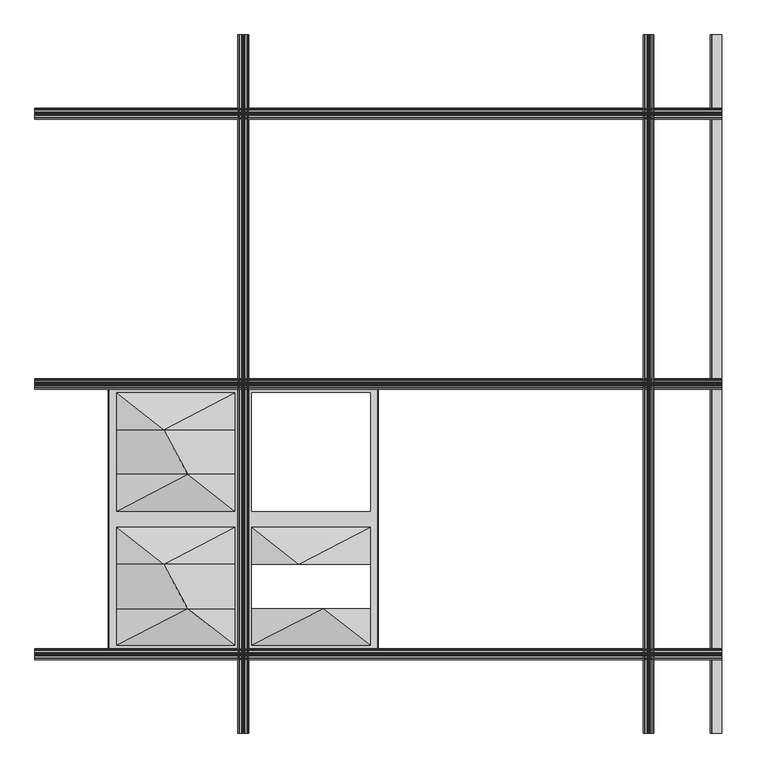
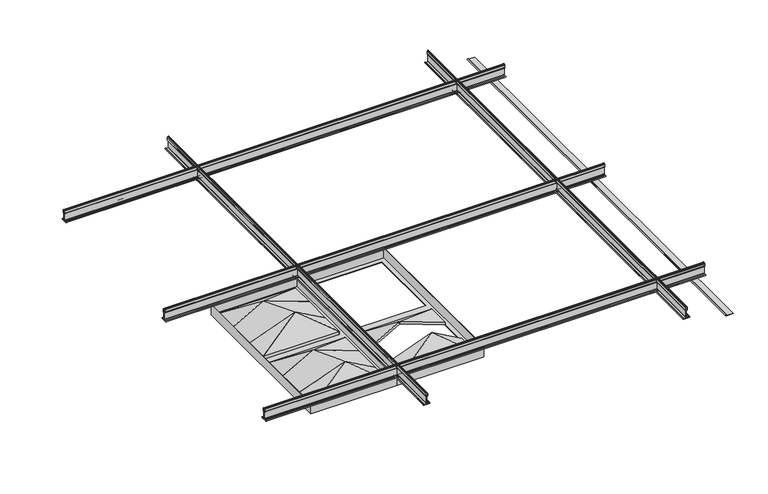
"""IFC4 building model written with IfcOpenShell, lengths in millimetres: proxy geometry, Maxxit_Highland-Ceiling_rev-01 : Maxxit_Highland-Ceiling_Duo."""

from ifc_helpers import new_model, si_unit, point, frame, frame_2d, origin, place, context, project, spatial, polyline, circle_curve, trimmed, segment, composite_curve, outline, extrude, faceted_brep, source, transform, mapped, element, save
from ifc_brep_helpers import plane_surface, spline_surface, advanced_brep


def generic_models_fc730ad4(model_context):
    return source(origin(), model_context, "Body", "SolidModel", [
        faceted_brep([(489.2062531, 196.8499878, -0.9528165), (755.90625, 196.8499878, -0.9528165), (649.8655039, 280.113865, 58.6660323), (755.90625, 196.8499878, -11.1125), (489.2062531, 196.8499878, -11.1125), (649.8479879, 280.1361956, 48.522338)], [[[0, 1, 2]], [[3, 4, 5]], [[1, 0, 4, 3]], [[5, 2, 1, 3]], [[2, 5, 4, 0]]]),
        faceted_brep([(489.2062531, 463.5172247, -0.9528165), (755.90625, 463.5172247, -0.9528165), (755.8430731, 463.5172247, -11.1125), (489.2062531, 463.5172247, -11.1125), (595.2710937, 380.2533474, 48.5063488), (595.2710937, 380.2533474, 58.6660323)], [[[0, 1, 2, 3]], [[3, 2, 4]], [[1, 0, 5]], [[5, 4, 2, 1]], [[4, 5, 0, 3]]]),
        faceted_brep([(755.90625, 280.113865, -11.1125), (649.8655039, 280.113865, 48.5063488), (489.2062531, 280.113865, -11.1125), (489.2062531, 280.113865, -0.9528165), (649.8655039, 280.113865, 58.6660323), (755.90625, 280.113865, -0.9528165), (755.90625, 196.8499878, -0.9528165), (755.90625, 196.8499878, -11.1125), (489.2113555, 196.8387928, -11.1106065), (489.2062531, 196.836147, -0.9528165)], [[[0, 1, 2, 3, 4, 5]], [[5, 4, 6]], [[0, 5, 6, 7]], [[1, 0, 7]], [[2, 1, 8]], [[3, 2, 8, 9]], [[4, 3, 9]], [[1, 4, 9, 8]], [[4, 1, 7, 6]]]),
        faceted_brep([(755.90625, 380.2533474, -11.1125), (755.90625, 380.2533474, -0.9528165), (595.2710937, 380.2533474, 58.6570911), (489.2062531, 380.2533474, -0.9528165), (489.2062531, 380.2533474, -11.1125), (595.2710937, 380.2533474, 48.4974075), (755.90625, 463.5499847, -0.9528165), (755.90625, 463.5499847, -11.1125), (489.2062531, 463.5499847, -11.1125), (489.2062531, 463.5499847, -0.9528165)], [[[0, 1, 2, 3, 4, 5]], [[2, 1, 6]], [[1, 0, 7, 6]], [[0, 5, 7]], [[5, 4, 8]], [[4, 3, 9, 8]], [[3, 2, 9]], [[5, 2, 6, 7]], [[2, 5, 8, 9]]]),
        faceted_brep([(470.69375, 785.8125, 25.4), (773.90625, 785.8125, 25.4), (773.90625, 785.8125, -12.7), (470.69375, 785.8125, -12.7), (755.90625, 463.5499847, -12.7), (755.90625, 196.8499878, -12.7), (755.90625, 196.8499878, -11.1125), (755.90625, 463.5499847, -11.1125), (489.2062531, 196.8499878, -12.7), (489.2062531, 196.8499878, -11.1125), (772.31875, 179.3875, -11.1125), (472.28125, 179.3875, -11.1125), (472.28125, 179.3875, 25.4), (772.31875, 179.3875, 25.4), (772.31875, 784.225, -11.1125), (772.31875, 784.225, 25.4), (470.69375, 177.8, 25.4), (773.90625, 177.8, 25.4), (472.28125, 784.225, 25.4), (470.69375, 177.8, -12.7), (773.90625, 177.8, -12.7), (489.2062531, 463.5499847, -12.7), (489.2062531, 766.7625122, -12.7), (489.2062531, 500.0625153, -12.7), (755.90625, 500.0625153, -12.7), (755.90625, 766.7625122, -12.7), (489.2062531, 463.5499847, -11.1125), (472.28125, 784.225, -11.1125), (489.2062531, 766.7625122, -11.1125), (755.90625, 766.7625122, -11.1125), (755.90625, 500.0625153, -11.1125), (489.2062531, 500.0625153, -11.1125)], [[[0, 1, 2, 3]], [[4, 5, 6, 7]], [[5, 8, 9, 6]], [[10, 11, 12, 13]], [[14, 10, 13, 15]], [[16, 17, 1, 0], [13, 12, 18, 15]], [[19, 3, 2, 20], [8, 5, 4, 21], [22, 23, 24, 25]], [[17, 16, 19, 20]], [[1, 17, 20, 2]], [[16, 0, 3, 19]], [[8, 21, 26, 9]], [[21, 4, 7, 26]], [[11, 10, 14, 27], [7, 6, 9, 26], [28, 29, 30, 31]], [[27, 14, 15, 18]], [[11, 27, 18, 12]], [[22, 25, 29, 28]], [[25, 24, 30, 29]], [[24, 23, 31, 30]], [[23, 22, 28, 31]]]),
        faceted_brep([(451.10625, 583.3263925, -11.1125), (345.0655039, 583.3263925, 48.5063488), (184.4062531, 583.3263925, -11.1125), (184.4062531, 583.3263925, -0.9528165), (345.0655039, 583.3263925, 58.6660323), (451.10625, 583.3263925, -0.9528165), (451.10625, 500.0625153, -0.9528165), (451.10625, 500.0625153, -11.1125), (184.4113555, 500.0513203, -11.1106065), (184.4062531, 500.0486744, -0.9528165)], [[[0, 1, 2, 3, 4, 5]], [[5, 4, 6]], [[0, 5, 6, 7]], [[1, 0, 7]], [[2, 1, 8]], [[3, 2, 8, 9]], [[4, 3, 9]], [[1, 4, 9, 8]], [[4, 1, 7, 6]]]),
        faceted_brep([(184.4062531, 500.0625153, -0.9528165), (451.10625, 500.0625153, -0.9528165), (345.0655039, 583.3263925, 58.6660323), (451.10625, 500.0625153, -11.1125), (184.4062531, 500.0625153, -11.1125), (345.0479879, 583.3487231, 48.522338)], [[[0, 1, 2]], [[3, 4, 5]], [[1, 0, 4, 3]], [[5, 2, 1, 3]], [[2, 5, 4, 0]]]),
        faceted_brep([(184.4062531, 766.7297521, -0.9528165), (451.10625, 766.7297521, -0.9528165), (451.0430731, 766.7297521, -11.1125), (184.4062531, 766.7297521, -11.1125), (290.4710937, 683.4658749, 48.5063488), (290.4710937, 683.4658749, 58.6660323)], [[[0, 1, 2, 3]], [[3, 2, 4]], [[1, 0, 5]], [[5, 4, 2, 1]], [[4, 5, 0, 3]]]),
        advanced_brep(
        [(451.10625, 280.113865, -0.9528165), (345.0655039, 280.113865, 58.6660323), (184.4062531, 280.113865, -0.9528165), (184.4062531, 280.113865, -11.1125), (345.0655039, 280.113865, 48.5063488), (451.10625, 280.113865, -11.1125), (451.10625, 380.2533474, -0.9528165), (451.10625, 380.2533474, -11.1125), (290.4710937, 380.2533474, 48.4974075), (184.4062531, 380.2533474, -11.1125), (184.4062531, 380.2533474, -0.9528165), (290.4710937, 380.2533474, 58.6570911)],
        [
            (0, 1),
            (1, 2),
            (2, 3),
            (3, 4),
            (4, 5),
            (5, 0),
            (6, 7),
            (7, 8),
            (8, 9),
            (9, 10),
            (10, 11),
            (11, 6),
            (6, 0),
            (5, 7),
            (4, 8),
            (3, 9),
            (2, 10),
            (1, 11),
        ],
        [
            plane_surface(frame((326.8593357, 280.113865, 13.8402914), z_axis=(0.0, -1.0000000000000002, 0.0), x_axis=(0.8716776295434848, 0.0, -0.4900796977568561))),
            plane_surface(frame((308.6611989, 380.2533474, 13.8373109), z_axis=(0.0, 1.0000000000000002, 0.0), x_axis=(0.8716776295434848, 0.0, -0.4900796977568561))),
            plane_surface(frame((451.10625, 380.2533474, -6.0326582), z_axis=(1.0, 0.0, 0.0), x_axis=(0.0, 0.0, 1.0))),
            spline_surface(1, 1, [[(290.4710937, 380.2533474, 48.4974075), (345.0655039, 280.113865, 48.5063488)], [(451.10625, 380.2533474, -11.1125), (451.10625, 280.113865, -11.1125)]], [2, 2], [2, 2], [0.0, 1.0], [0.0, 1.0]),
            spline_surface(1, 1, [[(184.4062531, 380.2533474, -11.1125), (184.4062531, 280.113865, -11.1125)], [(290.4710937, 380.2533474, 48.4974075), (345.0655039, 280.113865, 48.5063488)]], [2, 2], [2, 2], [0.0, 1.0], [0.0, 1.0]),
            plane_surface(frame((184.4062531, 380.2533474, -6.0326582), z_axis=(-1.0, 0.0, 0.0), x_axis=(0.0, 0.0, -1.0))),
            spline_surface(1, 1, [[(290.4710937, 380.2533474, 58.6570911), (345.0655039, 280.113865, 58.6660323)], [(184.4062531, 380.2533474, -0.9528165), (184.4062531, 280.113865, -0.9528165)]], [2, 2], [2, 2], [0.0, 1.0], [0.0, 1.0]),
            spline_surface(1, 1, [[(451.10625, 380.2533474, -0.9528165), (451.10625, 280.113865, -0.9528165)], [(290.4710937, 380.2533474, 58.6570911), (345.0655039, 280.113865, 58.6660323)]], [2, 2], [2, 2], [0.0, 1.0], [0.0, 1.0]),
        ],
        [
            (0, [[1, 2, 3, 4, 5, 6]]),
            (1, [[7, 8, 9, 10, 11, 12]]),
            (2, [[-7, 13, -6, 14]]),
            (3, [[-8, -14, -5, 15]]),
            (4, [[-9, -15, -4, 16]]),
            (5, [[-10, -16, -3, 17]]),
            (6, [[-11, -17, -2, 18]]),
            (7, [[-12, -18, -1, -13]]),
        ],
    ),
        faceted_brep([(451.10625, 683.4658749, -11.1125), (451.10625, 683.4658749, -0.9528165), (290.4710937, 683.4658749, 58.6570911), (184.4062531, 683.4658749, -0.9528165), (184.4062531, 683.4658749, -11.1125), (290.4710937, 683.4658749, 48.4974075), (451.10625, 766.7625122, -0.9528165), (451.10625, 766.7625122, -11.1125), (184.4062531, 766.7625122, -11.1125), (184.4062531, 766.7625122, -0.9528165)], [[[0, 1, 2, 3, 4, 5]], [[2, 1, 6]], [[1, 0, 7, 6]], [[0, 5, 7]], [[5, 4, 8]], [[4, 3, 9, 8]], [[3, 2, 9]], [[5, 2, 6, 7]], [[2, 5, 8, 9]]]),
        advanced_brep(
        [(451.10625, 583.3263925, -0.9528165), (345.0655039, 583.3263925, 58.6660323), (184.4062531, 583.3263925, -0.9528165), (184.4062531, 583.3263925, -11.1125), (345.0655039, 583.3263925, 48.5063488), (451.10625, 583.3263925, -11.1125), (451.10625, 683.4658749, -0.9528165), (451.10625, 683.4658749, -11.1125), (290.4710937, 683.4658749, 48.4974075), (184.4062531, 683.4658749, -11.1125), (184.4062531, 683.4658749, -0.9528165), (290.4710937, 683.4658749, 58.6570911)],
        [
            (0, 1),
            (1, 2),
            (2, 3),
            (3, 4),
            (4, 5),
            (5, 0),
            (6, 7),
            (7, 8),
            (8, 9),
            (9, 10),
            (10, 11),
            (11, 6),
            (6, 0),
            (5, 7),
            (4, 8),
            (3, 9),
            (2, 10),
            (1, 11),
        ],
        [
            plane_surface(frame((326.8593357, 583.3263925, 13.8402914), z_axis=(0.0, -1.0000000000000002, 0.0), x_axis=(0.8716776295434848, 0.0, -0.4900796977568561))),
            plane_surface(frame((308.6611989, 683.4658749, 13.8373109), z_axis=(0.0, 1.0000000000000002, 0.0), x_axis=(0.8716776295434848, 0.0, -0.4900796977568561))),
            plane_surface(frame((451.10625, 683.4658749, -6.0326582), z_axis=(1.0, 0.0, 0.0), x_axis=(0.0, 0.0, 1.0))),
            spline_surface(1, 1, [[(290.4710937, 683.4658749, 48.4974075), (345.0655039, 583.3263925, 48.5063488)], [(451.10625, 683.4658749, -11.1125), (451.10625, 583.3263925, -11.1125)]], [2, 2], [2, 2], [0.0, 1.0], [0.0, 1.0]),
            spline_surface(1, 1, [[(184.4062531, 683.4658749, -11.1125), (184.4062531, 583.3263925, -11.1125)], [(290.4710937, 683.4658749, 48.4974075), (345.0655039, 583.3263925, 48.5063488)]], [2, 2], [2, 2], [0.0, 1.0], [0.0, 1.0]),
            plane_surface(frame((184.4062531, 683.4658749, -6.0326582), z_axis=(-1.0, 0.0, 0.0), x_axis=(0.0, 0.0, -1.0))),
            spline_surface(1, 1, [[(290.4710937, 683.4658749, 58.6570911), (345.0655039, 583.3263925, 58.6660323)], [(184.4062531, 683.4658749, -0.9528165), (184.4062531, 583.3263925, -0.9528165)]], [2, 2], [2, 2], [0.0, 1.0], [0.0, 1.0]),
            spline_surface(1, 1, [[(451.10625, 683.4658749, -0.9528165), (451.10625, 583.3263925, -0.9528165)], [(290.4710937, 683.4658749, 58.6570911), (345.0655039, 583.3263925, 58.6660323)]], [2, 2], [2, 2], [0.0, 1.0], [0.0, 1.0]),
        ],
        [
            (0, [[1, 2, 3, 4, 5, 6]]),
            (1, [[7, 8, 9, 10, 11, 12]]),
            (2, [[-7, 13, -6, 14]]),
            (3, [[-8, -14, -5, 15]]),
            (4, [[-9, -15, -4, 16]]),
            (5, [[-10, -16, -3, 17]]),
            (6, [[-11, -17, -2, 18]]),
            (7, [[-12, -18, -1, -13]]),
        ],
    ),
        faceted_brep([(184.4062531, 196.8499878, -0.9528165), (451.10625, 196.8499878, -0.9528165), (345.0655039, 280.113865, 58.6660323), (451.10625, 196.8499878, -11.1125), (184.4062531, 196.8499878, -11.1125), (345.0479879, 280.1361956, 48.522338)], [[[0, 1, 2]], [[3, 4, 5]], [[1, 0, 4, 3]], [[5, 2, 1, 3]], [[2, 5, 4, 0]]]),
        faceted_brep([(184.4062531, 463.5172247, -0.9528165), (451.10625, 463.5172247, -0.9528165), (451.0430731, 463.5172247, -11.1125), (184.4062531, 463.5172247, -11.1125), (290.4710937, 380.2533474, 48.5063488), (290.4710937, 380.2533474, 58.6660323)], [[[0, 1, 2, 3]], [[3, 2, 4]], [[1, 0, 5]], [[5, 4, 2, 1]], [[4, 5, 0, 3]]]),
        faceted_brep([(451.10625, 280.113865, -11.1125), (345.0655039, 280.113865, 48.5063488), (184.4062531, 280.113865, -11.1125), (184.4062531, 280.113865, -0.9528165), (345.0655039, 280.113865, 58.6660323), (451.10625, 280.113865, -0.9528165), (451.10625, 196.8499878, -0.9528165), (451.10625, 196.8499878, -11.1125), (184.4113555, 196.8387928, -11.1106065), (184.4062531, 196.836147, -0.9528165)], [[[0, 1, 2, 3, 4, 5]], [[5, 4, 6]], [[0, 5, 6, 7]], [[1, 0, 7]], [[2, 1, 8]], [[3, 2, 8, 9]], [[4, 3, 9]], [[1, 4, 9, 8]], [[4, 1, 7, 6]]]),
        faceted_brep([(451.10625, 380.2533474, -11.1125), (451.10625, 380.2533474, -0.9528165), (290.4710937, 380.2533474, 58.6570911), (184.4062531, 380.2533474, -0.9528165), (184.4062531, 380.2533474, -11.1125), (290.4710937, 380.2533474, 48.4974075), (451.10625, 463.5499847, -0.9528165), (451.10625, 463.5499847, -11.1125), (184.4062531, 463.5499847, -11.1125), (184.4062531, 463.5499847, -0.9528165)], [[[0, 1, 2, 3, 4, 5]], [[2, 1, 6]], [[1, 0, 7, 6]], [[0, 5, 7]], [[5, 4, 8]], [[4, 3, 9, 8]], [[3, 2, 9]], [[5, 2, 6, 7]], [[2, 5, 8, 9]]]),
        faceted_brep([(165.89375, 785.8125, 25.4), (469.10625, 785.8125, 25.4), (469.10625, 785.8125, -12.7), (165.89375, 785.8125, -12.7), (451.10625, 463.5499847, -12.7), (451.10625, 196.8499878, -12.7), (451.10625, 196.8499878, -11.1125), (451.10625, 463.5499847, -11.1125), (184.4062531, 196.8499878, -12.7), (184.4062531, 196.8499878, -11.1125), (467.51875, 179.3875, -11.1125), (167.48125, 179.3875, -11.1125), (167.48125, 179.3875, 25.4), (467.51875, 179.3875, 25.4), (467.51875, 784.225, -11.1125), (467.51875, 784.225, 25.4), (165.89375, 177.8, 25.4), (469.10625, 177.8, 25.4), (167.48125, 784.225, 25.4), (165.89375, 177.8, -12.7), (469.10625, 177.8, -12.7), (184.4062531, 463.5499847, -12.7), (184.4062531, 766.7625122, -12.7), (184.4062531, 500.0625153, -12.7), (451.10625, 500.0625153, -12.7), (451.10625, 766.7625122, -12.7), (184.4062531, 463.5499847, -11.1125), (167.48125, 784.225, -11.1125), (184.4062531, 766.7625122, -11.1125), (451.10625, 766.7625122, -11.1125), (451.10625, 500.0625153, -11.1125), (184.4062531, 500.0625153, -11.1125)], [[[0, 1, 2, 3]], [[4, 5, 6, 7]], [[5, 8, 9, 6]], [[10, 11, 12, 13]], [[14, 10, 13, 15]], [[16, 17, 1, 0], [13, 12, 18, 15]], [[19, 3, 2, 20], [8, 5, 4, 21], [22, 23, 24, 25]], [[17, 16, 19, 20]], [[1, 17, 20, 2]], [[16, 0, 3, 19]], [[8, 21, 26, 9]], [[21, 4, 7, 26]], [[11, 10, 14, 27], [7, 6, 9, 26], [28, 29, 30, 31]], [[27, 14, 15, 18]], [[11, 27, 18, 12]], [[22, 25, 29, 28]], [[25, 24, 30, 29]], [[24, 23, 31, 30]], [[23, 22, 28, 31]]]),
        extrude(outline(composite_curve([segment(polyline([(26.3453115, 1385.4459122), (26.0364605, 1393.8159382), (27.0486923, 1393.8159382), (27.0486923, 1386.0525313)]), True, "CONTINUOUS"), segment(trimmed(circle_curve(frame_2d((28.0053766, 1386.0525313)), 0.9566843), [point((27.0486923, 1386.0525313))], [point((28.0053766, 1385.095847))], True, "CARTESIAN"), True, "CONTINUOUS"), segment(polyline([(28.0053766, 1385.095847), (53.7729211, 1385.095847)]), True, "CONTINUOUS"), segment(trimmed(circle_curve(frame_2d((53.6130577, 1385.8226944)), 0.74422), [point((53.7729211, 1385.095847))], [point((54.356, 1385.7791036))], True, "CARTESIAN"), True, "CONTINUOUS"), segment(trimmed(circle_curve(frame_2d((58.371716, 1386.0382203)), 4.0240672), [point((54.356, 1385.7791036))], [point((54.4068054, 1386.7256795))], False, "CARTESIAN"), True, "CONTINUOUS"), segment(trimmed(circle_curve(frame_2d((55.7865501, 1386.367924)), 1.4253717), [point((54.4068054, 1386.7256795))], [point((55.7865501, 1387.7932957))], False, "CARTESIAN"), True, "CONTINUOUS"), segment(polyline([(55.7865501, 1387.7932957), (64.7585942, 1387.7932957)]), True, "CONTINUOUS"), segment(trimmed(circle_curve(frame_2d((64.8150812, 1385.7432108)), 2.0508629), [point((64.7585942, 1387.7932957))], [point((66.2652603, 1387.1933899))], False, "CARTESIAN"), True, "CONTINUOUS"), segment(polyline([(66.2652603, 1387.1933899), (68.1708325, 1385.2878177)]), True, "CONTINUOUS"), segment(trimmed(circle_curve(frame_2d((67.1830148, 1384.3)), 1.3969852), [point((68.1708325, 1385.2878177))], [point((68.1708325, 1383.3121823))], False, "CARTESIAN"), True, "CONTINUOUS"), segment(polyline([(68.1708325, 1383.3121823), (66.2652603, 1381.4066101)]), True, "CONTINUOUS"), segment(trimmed(circle_curve(frame_2d((64.8150812, 1382.8567892)), 2.0508629), [point((66.2652603, 1381.4066101))], [point((64.7585942, 1380.8067043))], False, "CARTESIAN"), True, "CONTINUOUS"), segment(polyline([(64.7585942, 1380.8067043), (55.7865501, 1380.8067043)]), True, "CONTINUOUS"), segment(trimmed(circle_curve(frame_2d((55.7865501, 1382.232076)), 1.4253717), [point((55.7865501, 1380.8067043))], [point((54.4068054, 1381.8743205))], False, "CARTESIAN"), True, "CONTINUOUS"), segment(trimmed(circle_curve(frame_2d((58.371716, 1382.5617797)), 4.0240672), [point((54.4068054, 1381.8743205))], [point((54.356, 1382.8208964))], False, "CARTESIAN"), True, "CONTINUOUS"), segment(trimmed(circle_curve(frame_2d((53.6130577, 1382.7773056)), 0.74422), [point((54.356, 1382.8208964))], [point((53.7436541, 1383.5099774))], True, "CARTESIAN"), True, "CONTINUOUS"), segment(polyline([(53.7436541, 1383.5099774), (28.0053766, 1383.5099774)]), True, "CONTINUOUS"), segment(trimmed(circle_curve(frame_2d((28.0053766, 1382.5532931)), 0.9566843), [point((28.0053766, 1383.5099774))], [point((27.0486923, 1382.5532931))], True, "CARTESIAN"), True, "CONTINUOUS"), segment(polyline([(27.0486923, 1382.5532931), (27.0486923, 1373.9569771), (26.0290179, 1373.9569771), (26.3453115, 1383.1599122)]), True, "CONTINUOUS"), segment(trimmed(circle_curve(frame_2d((27.4883115, 1383.1599122)), 1.143), [point((26.3453115, 1383.1599122))], [point((27.4883115, 1384.3029122))], False, "CARTESIAN"), True, "CONTINUOUS"), segment(trimmed(circle_curve(frame_2d((27.4883115, 1385.4459122)), 1.143), [point((27.4883115, 1384.3029122))], [point((26.3453115, 1385.4459122))], False, "CARTESIAN"), True, "CONTINUOUS")], self_intersect=False), holes=[composite_curve([segment(trimmed(circle_curve(frame_2d((54.058724, 1383.2303923)), 1.0922), [point((54.2797221, 1384.3))], [point((55.150924, 1383.2303923))], False, "CARTESIAN"), True, "CONTINUOUS"), segment(polyline([(55.150924, 1383.2303923), (55.150924, 1382.2399715)]), True, "CONTINUOUS"), segment(trimmed(circle_curve(frame_2d((55.7859245, 1382.2399715)), 0.6350005), [point((55.150924, 1382.2399715))], [point((55.7859245, 1381.604971))], True, "CARTESIAN"), True, "CONTINUOUS"), segment(polyline([(55.7859245, 1381.604971), (64.7585942, 1381.604971)]), True, "CONTINUOUS"), segment(trimmed(circle_curve(frame_2d((64.7240599, 1383.1078141)), 1.5032399), [point((64.7585942, 1381.604971))], [point((65.7039943, 1381.9678761))], True, "CARTESIAN"), True, "CONTINUOUS"), segment(polyline([(65.7039943, 1381.9678761), (67.6095665, 1383.8734483)]), True, "CONTINUOUS"), segment(trimmed(circle_curve(frame_2d((67.1830148, 1384.3)), 0.6032352), [point((67.6095665, 1383.8734483))], [point((67.6095665, 1384.7265517))], True, "CARTESIAN"), True, "CONTINUOUS"), segment(polyline([(67.6095665, 1384.7265517), (65.7039943, 1386.6321239)]), True, "CONTINUOUS"), segment(trimmed(circle_curve(frame_2d((64.7240599, 1385.4921859)), 1.5032399), [point((65.7039943, 1386.6321239))], [point((64.7585942, 1386.995029))], True, "CARTESIAN"), True, "CONTINUOUS"), segment(polyline([(64.7585942, 1386.995029), (55.7859245, 1386.995029)]), True, "CONTINUOUS"), segment(trimmed(circle_curve(frame_2d((55.7859245, 1386.3600285)), 0.6350005), [point((55.7859245, 1386.995029))], [point((55.150924, 1386.3600285))], True, "CARTESIAN"), True, "CONTINUOUS"), segment(polyline([(55.150924, 1386.3600285), (55.150924, 1385.3696077)]), True, "CONTINUOUS"), segment(trimmed(circle_curve(frame_2d((54.058724, 1385.3696077)), 1.0922), [point((55.150924, 1385.3696077))], [point((54.2797221, 1384.3))], False, "CARTESIAN"), True, "CONTINUOUS")], self_intersect=False)]), frame((0.0, -0.79375, 0.0), z_axis=(0.0, 1.0, 0.0), x_axis=(0.0, 0.0, 1.0)), (0.0, 0.0, 1.0), 1574.8),
        extrude(outline(composite_curve([segment(trimmed(circle_curve(frame_2d((26.8823557, 1394.7357385)), 1.4823557), [point((25.4, 1394.7357385))], [point((28.3175237, 1394.3646975))], False, "CARTESIAN"), True, "CONTINUOUS"), segment(polyline([(28.3175237, 1394.3646975), (27.887022, 1392.8385205), (27.123083, 1393.0540113), (27.550773, 1394.5702203)]), True, "CONTINUOUS"), segment(trimmed(circle_curve(frame_2d((26.8823557, 1394.7357385)), 0.6886057), [point((27.550773, 1394.5702203))], [point((26.19375, 1394.7357385))], True, "CARTESIAN"), True, "CONTINUOUS"), segment(polyline([(26.19375, 1394.7357385), (26.19375, 1373.8642615)]), True, "CONTINUOUS"), segment(trimmed(circle_curve(frame_2d((26.8823557, 1373.8642615)), 0.6886057), [point((26.19375, 1373.8642615))], [point((27.550773, 1374.0297797))], True, "CARTESIAN"), True, "CONTINUOUS"), segment(polyline([(27.550773, 1374.0297797), (27.123083, 1375.5459887), (27.887022, 1375.7614795), (28.3175237, 1374.2353025)]), True, "CONTINUOUS"), segment(trimmed(circle_curve(frame_2d((26.8823557, 1373.8642615)), 1.4823557), [point((28.3175237, 1374.2353025))], [point((25.4, 1373.8642615))], False, "CARTESIAN"), True, "CONTINUOUS"), segment(polyline([(25.4, 1373.8642615), (25.4, 1394.7357385)]), True, "CONTINUOUS")], self_intersect=False)), frame((0.0, -0.79375, 0.0), z_axis=(0.0, 1.0, 0.0), x_axis=(0.0, 0.0, 1.0)), (0.0, 0.0, 1.0), 1574.8),
        extrude(outline(composite_curve([segment(trimmed(circle_curve(frame_2d((1397.3521622, 27.4883115)), 1.143), [point((1397.3521622, 26.3453115))], [point((1396.2091622, 27.4883115))], False, "CARTESIAN"), True, "CONTINUOUS"), segment(trimmed(circle_curve(frame_2d((1395.0661622, 27.4883115)), 1.143), [point((1396.2091622, 27.4883115))], [point((1395.0661622, 26.3453115))], False, "CARTESIAN"), True, "CONTINUOUS"), segment(polyline([(1395.0661622, 26.3453115), (1385.8632271, 26.0290179), (1385.8632271, 27.0486923), (1394.4595431, 27.0486923)]), True, "CONTINUOUS"), segment(trimmed(circle_curve(frame_2d((1394.4595431, 28.0053766)), 0.9566843), [point((1394.4595431, 27.0486923))], [point((1395.4162274, 28.0053766))], True, "CARTESIAN"), True, "CONTINUOUS"), segment(polyline([(1395.4162274, 28.0053766), (1395.4162274, 53.7436541)]), True, "CONTINUOUS"), segment(trimmed(circle_curve(frame_2d((1394.6835556, 53.6130577)), 0.74422), [point((1395.4162274, 53.7436541))], [point((1394.7271464, 54.356))], True, "CARTESIAN"), True, "CONTINUOUS"), segment(trimmed(circle_curve(frame_2d((1394.4680297, 58.371716)), 4.0240672), [point((1394.7271464, 54.356))], [point((1393.7805705, 54.4068054))], False, "CARTESIAN"), True, "CONTINUOUS"), segment(trimmed(circle_curve(frame_2d((1394.138326, 55.7865501)), 1.4253717), [point((1393.7805705, 54.4068054))], [point((1392.7129543, 55.7865501))], False, "CARTESIAN"), True, "CONTINUOUS"), segment(polyline([(1392.7129543, 55.7865501), (1392.7129543, 64.7585942)]), True, "CONTINUOUS"), segment(trimmed(circle_curve(frame_2d((1394.7630392, 64.8150812)), 2.0508629), [point((1392.7129543, 64.7585942))], [point((1393.3128601, 66.2652603))], False, "CARTESIAN"), True, "CONTINUOUS"), segment(polyline([(1393.3128601, 66.2652603), (1395.2184323, 68.1708325)]), True, "CONTINUOUS"), segment(trimmed(circle_curve(frame_2d((1396.20625, 67.1830148)), 1.3969852), [point((1395.2184323, 68.1708325))], [point((1397.1940677, 68.1708325))], False, "CARTESIAN"), True, "CONTINUOUS"), segment(polyline([(1397.1940677, 68.1708325), (1399.0996399, 66.2652603)]), True, "CONTINUOUS"), segment(trimmed(circle_curve(frame_2d((1397.6494608, 64.8150812)), 2.0508629), [point((1399.0996399, 66.2652603))], [point((1399.6995457, 64.7585942))], False, "CARTESIAN"), True, "CONTINUOUS"), segment(polyline([(1399.6995457, 64.7585942), (1399.6995457, 55.7865501)]), True, "CONTINUOUS"), segment(trimmed(circle_curve(frame_2d((1398.274174, 55.7865501)), 1.4253717), [point((1399.6995457, 55.7865501))], [point((1398.6319295, 54.4068054))], False, "CARTESIAN"), True, "CONTINUOUS"), segment(trimmed(circle_curve(frame_2d((1397.9444703, 58.371716)), 4.0240672), [point((1398.6319295, 54.4068054))], [point((1397.6853536, 54.356))], False, "CARTESIAN"), True, "CONTINUOUS"), segment(trimmed(circle_curve(frame_2d((1397.7289444, 53.6130577)), 0.74422), [point((1397.6853536, 54.356))], [point((1397.002097, 53.7729211))], True, "CARTESIAN"), True, "CONTINUOUS"), segment(polyline([(1397.002097, 53.7729211), (1397.002097, 28.0053766)]), True, "CONTINUOUS"), segment(trimmed(circle_curve(frame_2d((1397.9587813, 28.0053766)), 0.9566843), [point((1397.002097, 28.0053766))], [point((1397.9587813, 27.0486923))], True, "CARTESIAN"), True, "CONTINUOUS"), segment(polyline([(1397.9587813, 27.0486923), (1405.7221882, 27.0486923), (1405.7221882, 26.0364605), (1397.3521622, 26.3453115)]), True, "CONTINUOUS")], self_intersect=False), holes=[composite_curve([segment(trimmed(circle_curve(frame_2d((1397.2758577, 54.058724)), 1.0922), [point((1396.20625, 54.2797221))], [point((1397.2758577, 55.150924))], False, "CARTESIAN"), True, "CONTINUOUS"), segment(polyline([(1397.2758577, 55.150924), (1398.2662785, 55.150924)]), True, "CONTINUOUS"), segment(trimmed(circle_curve(frame_2d((1398.2662785, 55.7859245)), 0.6350005), [point((1398.2662785, 55.150924))], [point((1398.901279, 55.7859245))], True, "CARTESIAN"), True, "CONTINUOUS"), segment(polyline([(1398.901279, 55.7859245), (1398.901279, 64.7585942)]), True, "CONTINUOUS"), segment(trimmed(circle_curve(frame_2d((1397.3984359, 64.7240599)), 1.5032399), [point((1398.901279, 64.7585942))], [point((1398.5383739, 65.7039943))], True, "CARTESIAN"), True, "CONTINUOUS"), segment(polyline([(1398.5383739, 65.7039943), (1396.6328017, 67.6095665)]), True, "CONTINUOUS"), segment(trimmed(circle_curve(frame_2d((1396.20625, 67.1830148)), 0.6032352), [point((1396.6328017, 67.6095665))], [point((1395.7796983, 67.6095665))], True, "CARTESIAN"), True, "CONTINUOUS"), segment(polyline([(1395.7796983, 67.6095665), (1393.8741261, 65.7039943)]), True, "CONTINUOUS"), segment(trimmed(circle_curve(frame_2d((1395.0140641, 64.7240599)), 1.5032399), [point((1393.8741261, 65.7039943))], [point((1393.511221, 64.7585942))], True, "CARTESIAN"), True, "CONTINUOUS"), segment(polyline([(1393.511221, 64.7585942), (1393.511221, 55.7859245)]), True, "CONTINUOUS"), segment(trimmed(circle_curve(frame_2d((1394.1462215, 55.7859245)), 0.6350005), [point((1393.511221, 55.7859245))], [point((1394.1462215, 55.150924))], True, "CARTESIAN"), True, "CONTINUOUS"), segment(polyline([(1394.1462215, 55.150924), (1395.1366423, 55.150924)]), True, "CONTINUOUS"), segment(trimmed(circle_curve(frame_2d((1395.1366423, 54.058724)), 1.0922), [point((1395.1366423, 55.150924))], [point((1396.20625, 54.2797221))], False, "CARTESIAN"), True, "CONTINUOUS")], self_intersect=False)]), frame((0.0, 0.0, 0.0), z_axis=(1.0, 0.0, 0.0), x_axis=(0.0, 1.0, 0.0)), (0.0, 0.0, 1.0), 1549.4),
        extrude(outline(composite_curve([segment(polyline([(1406.6419885, 25.4), (1385.7705115, 25.4)]), True, "CONTINUOUS"), segment(trimmed(circle_curve(frame_2d((1385.7705115, 26.8823557)), 1.4823557), [point((1385.7705115, 25.4))], [point((1386.1415525, 28.3175237))], False, "CARTESIAN"), True, "CONTINUOUS"), segment(polyline([(1386.1415525, 28.3175237), (1387.6677295, 27.887022), (1387.4522387, 27.123083), (1385.9360297, 27.550773)]), True, "CONTINUOUS"), segment(trimmed(circle_curve(frame_2d((1385.7705115, 26.8823557)), 0.6886057), [point((1385.9360297, 27.550773))], [point((1385.7705115, 26.19375))], True, "CARTESIAN"), True, "CONTINUOUS"), segment(polyline([(1385.7705115, 26.19375), (1406.6419885, 26.19375)]), True, "CONTINUOUS"), segment(trimmed(circle_curve(frame_2d((1406.6419885, 26.8823557)), 0.6886057), [point((1406.6419885, 26.19375))], [point((1406.4764703, 27.550773))], True, "CARTESIAN"), True, "CONTINUOUS"), segment(polyline([(1406.4764703, 27.550773), (1404.9602613, 27.123083), (1404.7447705, 27.887022), (1406.2709475, 28.3175237)]), True, "CONTINUOUS"), segment(trimmed(circle_curve(frame_2d((1406.6419885, 26.8823557)), 1.4823557), [point((1406.2709475, 28.3175237))], [point((1406.6419885, 25.4))], False, "CARTESIAN"), True, "CONTINUOUS")], self_intersect=False)), frame((0.0, 0.0, 0.0), z_axis=(1.0, 0.0, 0.0), x_axis=(0.0, 1.0, 0.0)), (0.0, 0.0, 1.0), 1549.4),
        extrude(outline(composite_curve([segment(polyline([(26.3453115, 471.0459122), (26.0364605, 479.4159382), (27.0486923, 479.4159382), (27.0486923, 471.6525313)]), True, "CONTINUOUS"), segment(trimmed(circle_curve(frame_2d((28.0053766, 471.6525313)), 0.9566843), [point((27.0486923, 471.6525313))], [point((28.0053766, 470.695847))], True, "CARTESIAN"), True, "CONTINUOUS"), segment(polyline([(28.0053766, 470.695847), (53.7729211, 470.695847)]), True, "CONTINUOUS"), segment(trimmed(circle_curve(frame_2d((53.6130577, 471.4226944)), 0.74422), [point((53.7729211, 470.695847))], [point((54.356, 471.3791036))], True, "CARTESIAN"), True, "CONTINUOUS"), segment(trimmed(circle_curve(frame_2d((58.371716, 471.6382203)), 4.0240672), [point((54.356, 471.3791036))], [point((54.4068054, 472.3256795))], False, "CARTESIAN"), True, "CONTINUOUS"), segment(trimmed(circle_curve(frame_2d((55.7865501, 471.967924)), 1.4253717), [point((54.4068054, 472.3256795))], [point((55.7865501, 473.3932957))], False, "CARTESIAN"), True, "CONTINUOUS"), segment(polyline([(55.7865501, 473.3932957), (64.7585942, 473.3932957)]), True, "CONTINUOUS"), segment(trimmed(circle_curve(frame_2d((64.8150812, 471.3432108)), 2.0508629), [point((64.7585942, 473.3932957))], [point((66.2652603, 472.7933899))], False, "CARTESIAN"), True, "CONTINUOUS"), segment(polyline([(66.2652603, 472.7933899), (68.1708325, 470.8878177)]), True, "CONTINUOUS"), segment(trimmed(circle_curve(frame_2d((67.1830148, 469.9)), 1.3969852), [point((68.1708325, 470.8878177))], [point((68.1708325, 468.9121823))], False, "CARTESIAN"), True, "CONTINUOUS"), segment(polyline([(68.1708325, 468.9121823), (66.2652603, 467.0066101)]), True, "CONTINUOUS"), segment(trimmed(circle_curve(frame_2d((64.8150812, 468.4567892)), 2.0508629), [point((66.2652603, 467.0066101))], [point((64.7585942, 466.4067043))], False, "CARTESIAN"), True, "CONTINUOUS"), segment(polyline([(64.7585942, 466.4067043), (55.7865501, 466.4067043)]), True, "CONTINUOUS"), segment(trimmed(circle_curve(frame_2d((55.7865501, 467.832076)), 1.4253717), [point((55.7865501, 466.4067043))], [point((54.4068054, 467.4743205))], False, "CARTESIAN"), True, "CONTINUOUS"), segment(trimmed(circle_curve(frame_2d((58.371716, 468.1617797)), 4.0240672), [point((54.4068054, 467.4743205))], [point((54.356, 468.4208964))], False, "CARTESIAN"), True, "CONTINUOUS"), segment(trimmed(circle_curve(frame_2d((53.6130577, 468.3773056)), 0.74422), [point((54.356, 468.4208964))], [point((53.7436541, 469.1099774))], True, "CARTESIAN"), True, "CONTINUOUS"), segment(polyline([(53.7436541, 469.1099774), (28.0053766, 469.1099774)]), True, "CONTINUOUS"), segment(trimmed(circle_curve(frame_2d((28.0053766, 468.1532931)), 0.9566843), [point((28.0053766, 469.1099774))], [point((27.0486923, 468.1532931))], True, "CARTESIAN"), True, "CONTINUOUS"), segment(polyline([(27.0486923, 468.1532931), (27.0486923, 459.5569771), (26.0290179, 459.5569771), (26.3453115, 468.7599122)]), True, "CONTINUOUS"), segment(trimmed(circle_curve(frame_2d((27.4883115, 468.7599122)), 1.143), [point((26.3453115, 468.7599122))], [point((27.4883115, 469.9029122))], False, "CARTESIAN"), True, "CONTINUOUS"), segment(trimmed(circle_curve(frame_2d((27.4883115, 471.0459122)), 1.143), [point((27.4883115, 469.9029122))], [point((26.3453115, 471.0459122))], False, "CARTESIAN"), True, "CONTINUOUS")], self_intersect=False), holes=[composite_curve([segment(trimmed(circle_curve(frame_2d((54.058724, 468.8303923)), 1.0922), [point((54.2797221, 469.9))], [point((55.150924, 468.8303923))], False, "CARTESIAN"), True, "CONTINUOUS"), segment(polyline([(55.150924, 468.8303923), (55.150924, 467.8399715)]), True, "CONTINUOUS"), segment(trimmed(circle_curve(frame_2d((55.7859245, 467.8399715)), 0.6350005), [point((55.150924, 467.8399715))], [point((55.7859245, 467.204971))], True, "CARTESIAN"), True, "CONTINUOUS"), segment(polyline([(55.7859245, 467.204971), (64.7585942, 467.204971)]), True, "CONTINUOUS"), segment(trimmed(circle_curve(frame_2d((64.7240599, 468.7078141)), 1.5032399), [point((64.7585942, 467.204971))], [point((65.7039943, 467.5678761))], True, "CARTESIAN"), True, "CONTINUOUS"), segment(polyline([(65.7039943, 467.5678761), (67.6095665, 469.4734483)]), True, "CONTINUOUS"), segment(trimmed(circle_curve(frame_2d((67.1830148, 469.9)), 0.6032352), [point((67.6095665, 469.4734483))], [point((67.6095665, 470.3265517))], True, "CARTESIAN"), True, "CONTINUOUS"), segment(polyline([(67.6095665, 470.3265517), (65.7039943, 472.2321239)]), True, "CONTINUOUS"), segment(trimmed(circle_curve(frame_2d((64.7240599, 471.0921859)), 1.5032399), [point((65.7039943, 472.2321239))], [point((64.7585942, 472.595029))], True, "CARTESIAN"), True, "CONTINUOUS"), segment(polyline([(64.7585942, 472.595029), (55.7859245, 472.595029)]), True, "CONTINUOUS"), segment(trimmed(circle_curve(frame_2d((55.7859245, 471.9600285)), 0.6350005), [point((55.7859245, 472.595029))], [point((55.150924, 471.9600285))], True, "CARTESIAN"), True, "CONTINUOUS"), segment(polyline([(55.150924, 471.9600285), (55.150924, 470.9696077)]), True, "CONTINUOUS"), segment(trimmed(circle_curve(frame_2d((54.058724, 470.9696077)), 1.0922), [point((55.150924, 470.9696077))], [point((54.2797221, 469.9))], False, "CARTESIAN"), True, "CONTINUOUS")], self_intersect=False)]), frame((0.0, -0.79375, 0.0), z_axis=(0.0, 1.0, 0.0), x_axis=(0.0, 0.0, 1.0)), (0.0, 0.0, 1.0), 1574.8),
        extrude(outline(composite_curve([segment(trimmed(circle_curve(frame_2d((26.8823557, 480.3357385)), 1.4823557), [point((25.4, 480.3357385))], [point((28.3175237, 479.9646975))], False, "CARTESIAN"), True, "CONTINUOUS"), segment(polyline([(28.3175237, 479.9646975), (27.887022, 478.4385205), (27.123083, 478.6540113), (27.550773, 480.1702203)]), True, "CONTINUOUS"), segment(trimmed(circle_curve(frame_2d((26.8823557, 480.3357385)), 0.6886057), [point((27.550773, 480.1702203))], [point((26.19375, 480.3357385))], True, "CARTESIAN"), True, "CONTINUOUS"), segment(polyline([(26.19375, 480.3357385), (26.19375, 459.4642615)]), True, "CONTINUOUS"), segment(trimmed(circle_curve(frame_2d((26.8823557, 459.4642615)), 0.6886057), [point((26.19375, 459.4642615))], [point((27.550773, 459.6297797))], True, "CARTESIAN"), True, "CONTINUOUS"), segment(polyline([(27.550773, 459.6297797), (27.123083, 461.1459887), (27.887022, 461.3614795), (28.3175237, 459.8353025)]), True, "CONTINUOUS"), segment(trimmed(circle_curve(frame_2d((26.8823557, 459.4642615)), 1.4823557), [point((28.3175237, 459.8353025))], [point((25.4, 459.4642615))], False, "CARTESIAN"), True, "CONTINUOUS"), segment(polyline([(25.4, 459.4642615), (25.4, 480.3357385)]), True, "CONTINUOUS")], self_intersect=False)), frame((0.0, -0.79375, 0.0), z_axis=(0.0, 1.0, 0.0), x_axis=(0.0, 0.0, 1.0)), (0.0, 0.0, 1.0), 1574.8),
        extrude(outline(composite_curve([segment(trimmed(circle_curve(frame_2d((787.7521622, 27.4883115)), 1.143), [point((787.7521622, 26.3453115))], [point((786.6091622, 27.4883115))], False, "CARTESIAN"), True, "CONTINUOUS"), segment(trimmed(circle_curve(frame_2d((785.4661622, 27.4883115)), 1.143), [point((786.6091622, 27.4883115))], [point((785.4661622, 26.3453115))], False, "CARTESIAN"), True, "CONTINUOUS"), segment(polyline([(785.4661622, 26.3453115), (776.2632271, 26.0290179), (776.2632271, 27.0486923), (784.8595431, 27.0486923)]), True, "CONTINUOUS"), segment(trimmed(circle_curve(frame_2d((784.8595431, 28.0053766)), 0.9566843), [point((784.8595431, 27.0486923))], [point((785.8162274, 28.0053766))], True, "CARTESIAN"), True, "CONTINUOUS"), segment(polyline([(785.8162274, 28.0053766), (785.8162274, 53.7436541)]), True, "CONTINUOUS"), segment(trimmed(circle_curve(frame_2d((785.0835556, 53.6130577)), 0.74422), [point((785.8162274, 53.7436541))], [point((785.1271464, 54.356))], True, "CARTESIAN"), True, "CONTINUOUS"), segment(trimmed(circle_curve(frame_2d((784.8680297, 58.371716)), 4.0240672), [point((785.1271464, 54.356))], [point((784.1805705, 54.4068054))], False, "CARTESIAN"), True, "CONTINUOUS"), segment(trimmed(circle_curve(frame_2d((784.538326, 55.7865501)), 1.4253717), [point((784.1805705, 54.4068054))], [point((783.1129543, 55.7865501))], False, "CARTESIAN"), True, "CONTINUOUS"), segment(polyline([(783.1129543, 55.7865501), (783.1129543, 64.7585942)]), True, "CONTINUOUS"), segment(trimmed(circle_curve(frame_2d((785.1630392, 64.8150812)), 2.0508629), [point((783.1129543, 64.7585942))], [point((783.7128601, 66.2652603))], False, "CARTESIAN"), True, "CONTINUOUS"), segment(polyline([(783.7128601, 66.2652603), (785.6184323, 68.1708325)]), True, "CONTINUOUS"), segment(trimmed(circle_curve(frame_2d((786.60625, 67.1830148)), 1.3969852), [point((785.6184323, 68.1708325))], [point((787.5940677, 68.1708325))], False, "CARTESIAN"), True, "CONTINUOUS"), segment(polyline([(787.5940677, 68.1708325), (789.4996399, 66.2652603)]), True, "CONTINUOUS"), segment(trimmed(circle_curve(frame_2d((788.0494608, 64.8150812)), 2.0508629), [point((789.4996399, 66.2652603))], [point((790.0995457, 64.7585942))], False, "CARTESIAN"), True, "CONTINUOUS"), segment(polyline([(790.0995457, 64.7585942), (790.0995457, 55.7865501)]), True, "CONTINUOUS"), segment(trimmed(circle_curve(frame_2d((788.674174, 55.7865501)), 1.4253717), [point((790.0995457, 55.7865501))], [point((789.0319295, 54.4068054))], False, "CARTESIAN"), True, "CONTINUOUS"), segment(trimmed(circle_curve(frame_2d((788.3444703, 58.371716)), 4.0240672), [point((789.0319295, 54.4068054))], [point((788.0853536, 54.356))], False, "CARTESIAN"), True, "CONTINUOUS"), segment(trimmed(circle_curve(frame_2d((788.1289444, 53.6130577)), 0.74422), [point((788.0853536, 54.356))], [point((787.402097, 53.7729211))], True, "CARTESIAN"), True, "CONTINUOUS"), segment(polyline([(787.402097, 53.7729211), (787.402097, 28.0053766)]), True, "CONTINUOUS"), segment(trimmed(circle_curve(frame_2d((788.3587813, 28.0053766)), 0.9566843), [point((787.402097, 28.0053766))], [point((788.3587813, 27.0486923))], True, "CARTESIAN"), True, "CONTINUOUS"), segment(polyline([(788.3587813, 27.0486923), (796.1221882, 27.0486923), (796.1221882, 26.0364605), (787.7521622, 26.3453115)]), True, "CONTINUOUS")], self_intersect=False), holes=[composite_curve([segment(trimmed(circle_curve(frame_2d((787.6758577, 54.058724)), 1.0922), [point((786.60625, 54.2797221))], [point((787.6758577, 55.150924))], False, "CARTESIAN"), True, "CONTINUOUS"), segment(polyline([(787.6758577, 55.150924), (788.6662785, 55.150924)]), True, "CONTINUOUS"), segment(trimmed(circle_curve(frame_2d((788.6662785, 55.7859245)), 0.6350005), [point((788.6662785, 55.150924))], [point((789.301279, 55.7859245))], True, "CARTESIAN"), True, "CONTINUOUS"), segment(polyline([(789.301279, 55.7859245), (789.301279, 64.7585942)]), True, "CONTINUOUS"), segment(trimmed(circle_curve(frame_2d((787.7984359, 64.7240599)), 1.5032399), [point((789.301279, 64.7585942))], [point((788.9383739, 65.7039943))], True, "CARTESIAN"), True, "CONTINUOUS"), segment(polyline([(788.9383739, 65.7039943), (787.0328017, 67.6095665)]), True, "CONTINUOUS"), segment(trimmed(circle_curve(frame_2d((786.60625, 67.1830148)), 0.6032352), [point((787.0328017, 67.6095665))], [point((786.1796983, 67.6095665))], True, "CARTESIAN"), True, "CONTINUOUS"), segment(polyline([(786.1796983, 67.6095665), (784.2741261, 65.7039943)]), True, "CONTINUOUS"), segment(trimmed(circle_curve(frame_2d((785.4140641, 64.7240599)), 1.5032399), [point((784.2741261, 65.7039943))], [point((783.911221, 64.7585942))], True, "CARTESIAN"), True, "CONTINUOUS"), segment(polyline([(783.911221, 64.7585942), (783.911221, 55.7859245)]), True, "CONTINUOUS"), segment(trimmed(circle_curve(frame_2d((784.5462215, 55.7859245)), 0.6350005), [point((783.911221, 55.7859245))], [point((784.5462215, 55.150924))], True, "CARTESIAN"), True, "CONTINUOUS"), segment(polyline([(784.5462215, 55.150924), (785.5366423, 55.150924)]), True, "CONTINUOUS"), segment(trimmed(circle_curve(frame_2d((785.5366423, 54.058724)), 1.0922), [point((785.5366423, 55.150924))], [point((786.60625, 54.2797221))], False, "CARTESIAN"), True, "CONTINUOUS")], self_intersect=False)]), frame((0.0, 0.0, 0.0), z_axis=(1.0, 0.0, 0.0), x_axis=(0.0, 1.0, 0.0)), (0.0, 0.0, 1.0), 1549.4),
        extrude(outline(composite_curve([segment(polyline([(797.0419885, 25.4), (776.1705115, 25.4)]), True, "CONTINUOUS"), segment(trimmed(circle_curve(frame_2d((776.1705115, 26.8823557)), 1.4823557), [point((776.1705115, 25.4))], [point((776.5415525, 28.3175237))], False, "CARTESIAN"), True, "CONTINUOUS"), segment(polyline([(776.5415525, 28.3175237), (778.0677295, 27.887022), (777.8522387, 27.123083), (776.3360297, 27.550773)]), True, "CONTINUOUS"), segment(trimmed(circle_curve(frame_2d((776.1705115, 26.8823557)), 0.6886057), [point((776.3360297, 27.550773))], [point((776.1705115, 26.19375))], True, "CARTESIAN"), True, "CONTINUOUS"), segment(polyline([(776.1705115, 26.19375), (797.0419885, 26.19375)]), True, "CONTINUOUS"), segment(trimmed(circle_curve(frame_2d((797.0419885, 26.8823557)), 0.6886057), [point((797.0419885, 26.19375))], [point((796.8764703, 27.550773))], True, "CARTESIAN"), True, "CONTINUOUS"), segment(polyline([(796.8764703, 27.550773), (795.3602613, 27.123083), (795.1447705, 27.887022), (796.6709475, 28.3175237)]), True, "CONTINUOUS"), segment(trimmed(circle_curve(frame_2d((797.0419885, 26.8823557)), 1.4823557), [point((796.6709475, 28.3175237))], [point((797.0419885, 25.4))], False, "CARTESIAN"), True, "CONTINUOUS")], self_intersect=False)), frame((0.0, 0.0, 0.0), z_axis=(1.0, 0.0, 0.0), x_axis=(0.0, 1.0, 0.0)), (0.0, 0.0, 1.0), 1549.4),
        extrude(outline(composite_curve([segment(trimmed(circle_curve(frame_2d((178.1521622, 27.4883115)), 1.143), [point((178.1521622, 26.3453115))], [point((177.0091622, 27.4883115))], False, "CARTESIAN"), True, "CONTINUOUS"), segment(trimmed(circle_curve(frame_2d((175.8661622, 27.4883115)), 1.143), [point((177.0091622, 27.4883115))], [point((175.8661622, 26.3453115))], False, "CARTESIAN"), True, "CONTINUOUS"), segment(polyline([(175.8661622, 26.3453115), (166.6632271, 26.0290179), (166.6632271, 27.0486923), (175.2595431, 27.0486923)]), True, "CONTINUOUS"), segment(trimmed(circle_curve(frame_2d((175.2595431, 28.0053766)), 0.9566843), [point((175.2595431, 27.0486923))], [point((176.2162274, 28.0053766))], True, "CARTESIAN"), True, "CONTINUOUS"), segment(polyline([(176.2162274, 28.0053766), (176.2162274, 53.7436541)]), True, "CONTINUOUS"), segment(trimmed(circle_curve(frame_2d((175.4835556, 53.6130577)), 0.74422), [point((176.2162274, 53.7436541))], [point((175.5271464, 54.356))], True, "CARTESIAN"), True, "CONTINUOUS"), segment(trimmed(circle_curve(frame_2d((175.2680297, 58.371716)), 4.0240672), [point((175.5271464, 54.356))], [point((174.5805705, 54.4068054))], False, "CARTESIAN"), True, "CONTINUOUS"), segment(trimmed(circle_curve(frame_2d((174.938326, 55.7865501)), 1.4253717), [point((174.5805705, 54.4068054))], [point((173.5129543, 55.7865501))], False, "CARTESIAN"), True, "CONTINUOUS"), segment(polyline([(173.5129543, 55.7865501), (173.5129543, 64.7585942)]), True, "CONTINUOUS"), segment(trimmed(circle_curve(frame_2d((175.5630392, 64.8150812)), 2.0508629), [point((173.5129543, 64.7585942))], [point((174.1128601, 66.2652603))], False, "CARTESIAN"), True, "CONTINUOUS"), segment(polyline([(174.1128601, 66.2652603), (176.0184323, 68.1708325)]), True, "CONTINUOUS"), segment(trimmed(circle_curve(frame_2d((177.00625, 67.1830148)), 1.3969852), [point((176.0184323, 68.1708325))], [point((177.9940677, 68.1708325))], False, "CARTESIAN"), True, "CONTINUOUS"), segment(polyline([(177.9940677, 68.1708325), (179.8996399, 66.2652603)]), True, "CONTINUOUS"), segment(trimmed(circle_curve(frame_2d((178.4494608, 64.8150812)), 2.0508629), [point((179.8996399, 66.2652603))], [point((180.4995457, 64.7585942))], False, "CARTESIAN"), True, "CONTINUOUS"), segment(polyline([(180.4995457, 64.7585942), (180.4995457, 55.7865501)]), True, "CONTINUOUS"), segment(trimmed(circle_curve(frame_2d((179.074174, 55.7865501)), 1.4253717), [point((180.4995457, 55.7865501))], [point((179.4319295, 54.4068054))], False, "CARTESIAN"), True, "CONTINUOUS"), segment(trimmed(circle_curve(frame_2d((178.7444703, 58.371716)), 4.0240672), [point((179.4319295, 54.4068054))], [point((178.4853536, 54.356))], False, "CARTESIAN"), True, "CONTINUOUS"), segment(trimmed(circle_curve(frame_2d((178.5289444, 53.6130577)), 0.74422), [point((178.4853536, 54.356))], [point((177.802097, 53.7729211))], True, "CARTESIAN"), True, "CONTINUOUS"), segment(polyline([(177.802097, 53.7729211), (177.802097, 28.0053766)]), True, "CONTINUOUS"), segment(trimmed(circle_curve(frame_2d((178.7587813, 28.0053766)), 0.9566843), [point((177.802097, 28.0053766))], [point((178.7587813, 27.0486923))], True, "CARTESIAN"), True, "CONTINUOUS"), segment(polyline([(178.7587813, 27.0486923), (186.5221882, 27.0486923), (186.5221882, 26.0364605), (178.1521622, 26.3453115)]), True, "CONTINUOUS")], self_intersect=False), holes=[composite_curve([segment(trimmed(circle_curve(frame_2d((178.0758577, 54.058724)), 1.0922), [point((177.00625, 54.2797221))], [point((178.0758577, 55.150924))], False, "CARTESIAN"), True, "CONTINUOUS"), segment(polyline([(178.0758577, 55.150924), (179.0662785, 55.150924)]), True, "CONTINUOUS"), segment(trimmed(circle_curve(frame_2d((179.0662785, 55.7859245)), 0.6350005), [point((179.0662785, 55.150924))], [point((179.701279, 55.7859245))], True, "CARTESIAN"), True, "CONTINUOUS"), segment(polyline([(179.701279, 55.7859245), (179.701279, 64.7585942)]), True, "CONTINUOUS"), segment(trimmed(circle_curve(frame_2d((178.1984359, 64.7240599)), 1.5032399), [point((179.701279, 64.7585942))], [point((179.3383739, 65.7039943))], True, "CARTESIAN"), True, "CONTINUOUS"), segment(polyline([(179.3383739, 65.7039943), (177.4328017, 67.6095665)]), True, "CONTINUOUS"), segment(trimmed(circle_curve(frame_2d((177.00625, 67.1830148)), 0.6032352), [point((177.4328017, 67.6095665))], [point((176.5796983, 67.6095665))], True, "CARTESIAN"), True, "CONTINUOUS"), segment(polyline([(176.5796983, 67.6095665), (174.6741261, 65.7039943)]), True, "CONTINUOUS"), segment(trimmed(circle_curve(frame_2d((175.8140641, 64.7240599)), 1.5032399), [point((174.6741261, 65.7039943))], [point((174.311221, 64.7585942))], True, "CARTESIAN"), True, "CONTINUOUS"), segment(polyline([(174.311221, 64.7585942), (174.311221, 55.7859245)]), True, "CONTINUOUS"), segment(trimmed(circle_curve(frame_2d((174.9462215, 55.7859245)), 0.6350005), [point((174.311221, 55.7859245))], [point((174.9462215, 55.150924))], True, "CARTESIAN"), True, "CONTINUOUS"), segment(polyline([(174.9462215, 55.150924), (175.9366423, 55.150924)]), True, "CONTINUOUS"), segment(trimmed(circle_curve(frame_2d((175.9366423, 54.058724)), 1.0922), [point((175.9366423, 55.150924))], [point((177.00625, 54.2797221))], False, "CARTESIAN"), True, "CONTINUOUS")], self_intersect=False)]), frame((0.0, 0.0, 0.0), z_axis=(1.0, 0.0, 0.0), x_axis=(0.0, 1.0, 0.0)), (0.0, 0.0, 1.0), 1549.4),
        extrude(outline(composite_curve([segment(polyline([(187.4419885, 25.4), (166.5705115, 25.4)]), True, "CONTINUOUS"), segment(trimmed(circle_curve(frame_2d((166.5705115, 26.8823557)), 1.4823557), [point((166.5705115, 25.4))], [point((166.9415525, 28.3175237))], False, "CARTESIAN"), True, "CONTINUOUS"), segment(polyline([(166.9415525, 28.3175237), (168.4677295, 27.887022), (168.2522387, 27.123083), (166.7360297, 27.550773)]), True, "CONTINUOUS"), segment(trimmed(circle_curve(frame_2d((166.5705115, 26.8823557)), 0.6886057), [point((166.7360297, 27.550773))], [point((166.5705115, 26.19375))], True, "CARTESIAN"), True, "CONTINUOUS"), segment(polyline([(166.5705115, 26.19375), (187.4419885, 26.19375)]), True, "CONTINUOUS"), segment(trimmed(circle_curve(frame_2d((187.4419885, 26.8823557)), 0.6886057), [point((187.4419885, 26.19375))], [point((187.2764703, 27.550773))], True, "CARTESIAN"), True, "CONTINUOUS"), segment(polyline([(187.2764703, 27.550773), (185.7602613, 27.123083), (185.5447705, 27.887022), (187.0709475, 28.3175237)]), True, "CONTINUOUS"), segment(trimmed(circle_curve(frame_2d((187.4419885, 26.8823557)), 1.4823557), [point((187.0709475, 28.3175237))], [point((187.4419885, 25.4))], False, "CARTESIAN"), True, "CONTINUOUS")], self_intersect=False)), frame((0.0, 0.0, 0.0), z_axis=(1.0, 0.0, 0.0), x_axis=(0.0, 1.0, 0.0)), (0.0, 0.0, 1.0), 1549.4),
        extrude(outline(composite_curve([segment(polyline([(-14.9820313, 1549.3700026), (-14.1882813, 1549.3700026), (-14.1882813, 1524.6746645)]), True, "CONTINUOUS"), segment(trimmed(circle_curve(frame_2d((-13.4996755, 1524.6746645)), 0.6886057), [point((-14.1882813, 1524.6746645))], [point((-12.8312583, 1524.8401827))], True, "CARTESIAN"), True, "CONTINUOUS"), segment(polyline([(-12.8312583, 1524.8401827), (-13.2589482, 1526.3563917), (-12.4950092, 1526.5718825), (-12.0645075, 1525.0457055)]), True, "CONTINUOUS"), segment(trimmed(circle_curve(frame_2d((-13.4996755, 1524.6746645)), 1.4823557), [point((-12.0645075, 1525.0457055))], [point((-14.9820313, 1524.6746645))], False, "CARTESIAN"), True, "CONTINUOUS"), segment(polyline([(-14.9820313, 1524.6746645), (-14.9820313, 1549.3700026)]), True, "CONTINUOUS")], self_intersect=False)), frame((0.0, -0.79375, 0.0), z_axis=(0.0, 1.0, 0.0), x_axis=(0.0, 0.0, 1.0)), (0.0, 0.0, 1.0), 1574.8),
    ])


if __name__ == "__main__":
    model = new_model("IFC4")
    model_context = context("Model", 3, world=origin())
    ifc_project = project(units=[si_unit("LENGTHUNIT", "METRE", prefix="MILLI")], contexts=[model_context])
    site = spatial("IfcSite", under=ifc_project)
    building = spatial("IfcBuilding", under=site)
    placement = place(None, origin())
    generic_models_shape = generic_models_fc730ad4(model_context)
    element("IfcBuildingElementProxy", 1, Name="Maxxit_Highland-Ceiling_rev-01 : Maxxit_Highland-Ceiling_Duo", ObjectType="Maxxit_Highland-Ceiling_rev-01 : Maxxit_Highland-Ceiling_Duo", at=placement, inside=building, context=model_context, shape_type="MappedRepresentation", body=[
        mapped(generic_models_shape, transform((0.0, 0.0, 0.0), x_axis=(1.0, 0.0, 0.0), y_axis=(0.0, 1.0, 0.0), z_axis=(0.0, 0.0, 1.0))),
    ])
    save(model, "model.ifc")
